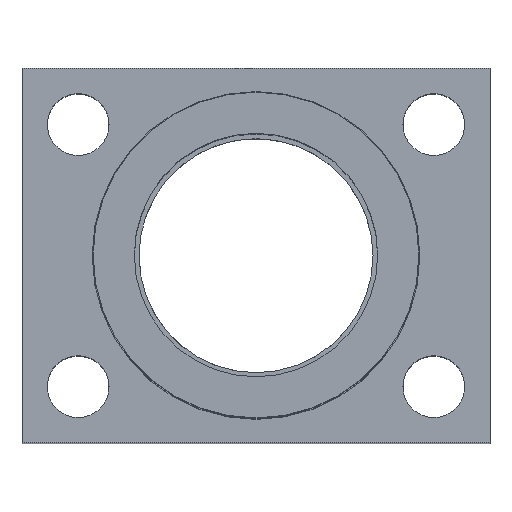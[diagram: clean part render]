
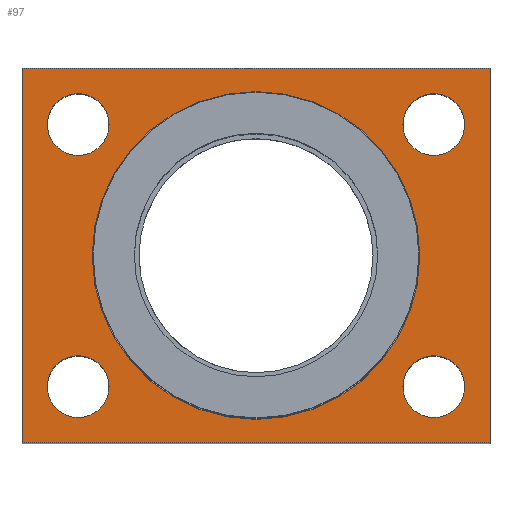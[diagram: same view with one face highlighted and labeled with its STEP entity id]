
A CAD part, top view. The second image highlights one B-rep face of the part: STEP entity #97.
In plain terms, the highlighted planar face has unit normal (0, 0, 1).
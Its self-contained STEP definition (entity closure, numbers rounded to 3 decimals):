
#1 = CARTESIAN_POINT ( 'NONE',  ( 22.3, -14., 8. ) ) ;
#16 = CARTESIAN_POINT ( 'NONE',  ( 25., -20., 8. ) ) ;
#58 = CARTESIAN_POINT ( 'NONE',  ( 19., -14., 8. ) ) ;
#68 = CIRCLE ( 'NONE', #1150, 3.3 ) ;
#75 = EDGE_CURVE ( 'NONE', #98, #625, #1276, .T. ) ;
#79 = ORIENTED_EDGE ( 'NONE', *, *, #1297, .F. ) ;
#85 = FACE_BOUND ( 'NONE', #1611, .T. ) ;
#97 = ADVANCED_FACE ( 'NONE', ( #85, #1793, #261, #1907, #995, #694 ), #1771, .T. ) ;
#98 = VERTEX_POINT ( 'NONE', #1926 ) ;
#109 = EDGE_CURVE ( 'NONE', #361, #1855, #1498, .T. ) ;
#135 = DIRECTION ( 'NONE',  ( 0., 0., 1. ) ) ;
#154 = VERTEX_POINT ( 'NONE', #825 ) ;
#156 = CIRCLE ( 'NONE', #736, 3.3 ) ;
#203 = VERTEX_POINT ( 'NONE', #1153 ) ;
#224 = VERTEX_POINT ( 'NONE', #1802 ) ;
#238 = ORIENTED_EDGE ( 'NONE', *, *, #979, .F. ) ;
#259 = AXIS2_PLACEMENT_3D ( 'NONE', #612, #1221, #920 ) ;
#261 = FACE_BOUND ( 'NONE', #1737, .T. ) ;
#289 = ORIENTED_EDGE ( 'NONE', *, *, #109, .F. ) ;
#338 = EDGE_CURVE ( 'NONE', #224, #380, #458, .T. ) ;
#351 = ORIENTED_EDGE ( 'NONE', *, *, #497, .T. ) ;
#361 = VERTEX_POINT ( 'NONE', #1071 ) ;
#364 = EDGE_CURVE ( 'NONE', #625, #224, #1862, .T. ) ;
#380 = VERTEX_POINT ( 'NONE', #16 ) ;
#391 = DIRECTION ( 'NONE',  ( 0., 0., 1. ) ) ;
#413 = CARTESIAN_POINT ( 'NONE',  ( 22.3, 14., 8. ) ) ;
#417 = CARTESIAN_POINT ( 'NONE',  ( -19., 14., 8. ) ) ;
#431 = DIRECTION ( 'NONE',  ( 1., 0., 0. ) ) ;
#444 = AXIS2_PLACEMENT_3D ( 'NONE', #1776, #1308, #1470 ) ;
#458 = LINE ( 'NONE', #1082, #536 ) ;
#477 = AXIS2_PLACEMENT_3D ( 'NONE', #1720, #680, #960 ) ;
#497 = EDGE_CURVE ( 'NONE', #380, #98, #567, .T. ) ;
#500 = ORIENTED_EDGE ( 'NONE', *, *, #715, .F. ) ;
#503 = CARTESIAN_POINT ( 'NONE',  ( 19., 14., 8. ) ) ;
#509 = CIRCLE ( 'NONE', #572, 3.3 ) ;
#518 = ORIENTED_EDGE ( 'NONE', *, *, #75, .T. ) ;
#521 = CARTESIAN_POINT ( 'NONE',  ( 0., 0., 8. ) ) ;
#532 = AXIS2_PLACEMENT_3D ( 'NONE', #1648, #586, #431 ) ;
#535 = EDGE_CURVE ( 'NONE', #154, #664, #156, .T. ) ;
#536 = VECTOR ( 'NONE', #964, 1000. ) ;
#548 = DIRECTION ( 'NONE',  ( 0., 1., 0. ) ) ;
#567 = LINE ( 'NONE', #852, #799 ) ;
#572 = AXIS2_PLACEMENT_3D ( 'NONE', #58, #974, #1127 ) ;
#577 = CARTESIAN_POINT ( 'NONE',  ( 15.7, -14., 8. ) ) ;
#580 = CARTESIAN_POINT ( 'NONE',  ( -19., 14., 8. ) ) ;
#586 = DIRECTION ( 'NONE',  ( 0., 0., 1. ) ) ;
#593 = EDGE_LOOP ( 'NONE', ( #518, #1718, #1119, #351 ) ) ;
#602 = AXIS2_PLACEMENT_3D ( 'NONE', #521, #391, #1759 ) ;
#612 = CARTESIAN_POINT ( 'NONE',  ( -19., -14., 8. ) ) ;
#625 = VERTEX_POINT ( 'NONE', #1050 ) ;
#631 = DIRECTION ( 'NONE',  ( 0., -1., 0. ) ) ;
#664 = VERTEX_POINT ( 'NONE', #1372 ) ;
#680 = DIRECTION ( 'NONE',  ( 0., 0., 1. ) ) ;
#682 = DIRECTION ( 'NONE',  ( 0., 0., 1. ) ) ;
#694 = FACE_OUTER_BOUND ( 'NONE', #593, .T. ) ;
#715 = EDGE_CURVE ( 'NONE', #1855, #361, #1116, .T. ) ;
#736 = AXIS2_PLACEMENT_3D ( 'NONE', #580, #135, #1778 ) ;
#796 = VECTOR ( 'NONE', #631, 1000. ) ;
#799 = VECTOR ( 'NONE', #548, 1000. ) ;
#814 = DIRECTION ( 'NONE',  ( 1., 0., 0. ) ) ;
#825 = CARTESIAN_POINT ( 'NONE',  ( -22.3, 14., 8. ) ) ;
#852 = CARTESIAN_POINT ( 'NONE',  ( 25., -20., 8. ) ) ;
#854 = EDGE_CURVE ( 'NONE', #947, #1415, #1022, .T. ) ;
#886 = CARTESIAN_POINT ( 'NONE',  ( 17.5, 0., 8. ) ) ;
#920 = DIRECTION ( 'NONE',  ( 1., 0., 0. ) ) ;
#947 = VERTEX_POINT ( 'NONE', #1458 ) ;
#955 = ORIENTED_EDGE ( 'NONE', *, *, #1780, .F. ) ;
#960 = DIRECTION ( 'NONE',  ( 1., 0., 0. ) ) ;
#964 = DIRECTION ( 'NONE',  ( 1., 0., 0. ) ) ;
#974 = DIRECTION ( 'NONE',  ( 0., 0., 1. ) ) ;
#979 = EDGE_CURVE ( 'NONE', #1521, #203, #1242, .T. ) ;
#980 = AXIS2_PLACEMENT_3D ( 'NONE', #417, #1918, #1030 ) ;
#992 = CIRCLE ( 'NONE', #980, 3.3 ) ;
#995 = FACE_BOUND ( 'NONE', #1548, .T. ) ;
#1017 = ORIENTED_EDGE ( 'NONE', *, *, #1831, .F. ) ;
#1022 = CIRCLE ( 'NONE', #1024, 3.3 ) ;
#1024 = AXIS2_PLACEMENT_3D ( 'NONE', #1750, #682, #814 ) ;
#1030 = DIRECTION ( 'NONE',  ( 1., 0., 0. ) ) ;
#1044 = EDGE_LOOP ( 'NONE', ( #1947, #955 ) ) ;
#1050 = CARTESIAN_POINT ( 'NONE',  ( -25., 20., 8. ) ) ;
#1071 = CARTESIAN_POINT ( 'NONE',  ( -22.3, -14., 8. ) ) ;
#1082 = CARTESIAN_POINT ( 'NONE',  ( -25., -20., 8. ) ) ;
#1105 = EDGE_LOOP ( 'NONE', ( #79, #1657 ) ) ;
#1116 = CIRCLE ( 'NONE', #259, 3.3 ) ;
#1119 = ORIENTED_EDGE ( 'NONE', *, *, #338, .T. ) ;
#1127 = DIRECTION ( 'NONE',  ( 1., 0., 0. ) ) ;
#1150 = AXIS2_PLACEMENT_3D ( 'NONE', #503, #1865, #1885 ) ;
#1153 = CARTESIAN_POINT ( 'NONE',  ( -17.5, 0., 8. ) ) ;
#1221 = DIRECTION ( 'NONE',  ( 0., 0., 1. ) ) ;
#1242 = CIRCLE ( 'NONE', #444, 17.5 ) ;
#1270 = CIRCLE ( 'NONE', #532, 17.5 ) ;
#1276 = LINE ( 'NONE', #1412, #1593 ) ;
#1292 = EDGE_CURVE ( 'NONE', #1415, #947, #68, .T. ) ;
#1297 = EDGE_CURVE ( 'NONE', #1883, #1842, #509, .T. ) ;
#1303 = DIRECTION ( 'NONE',  ( 0., 0., 1. ) ) ;
#1308 = DIRECTION ( 'NONE',  ( 0., 0., 1. ) ) ;
#1345 = EDGE_CURVE ( 'NONE', #1842, #1883, #1570, .T. ) ;
#1372 = CARTESIAN_POINT ( 'NONE',  ( -15.7, 14., 8. ) ) ;
#1412 = CARTESIAN_POINT ( 'NONE',  ( 25., 20., 8. ) ) ;
#1415 = VERTEX_POINT ( 'NONE', #413 ) ;
#1458 = CARTESIAN_POINT ( 'NONE',  ( 15.7, 14., 8. ) ) ;
#1464 = CARTESIAN_POINT ( 'NONE',  ( -19., -14., 8. ) ) ;
#1470 = DIRECTION ( 'NONE',  ( 1., 0., 0. ) ) ;
#1498 = CIRCLE ( 'NONE', #1754, 3.3 ) ;
#1521 = VERTEX_POINT ( 'NONE', #886 ) ;
#1548 = EDGE_LOOP ( 'NONE', ( #238, #1017 ) ) ;
#1570 = CIRCLE ( 'NONE', #477, 3.3 ) ;
#1577 = CARTESIAN_POINT ( 'NONE',  ( -25., 20., 8. ) ) ;
#1593 = VECTOR ( 'NONE', #1898, 1000. ) ;
#1611 = EDGE_LOOP ( 'NONE', ( #1813, #1625 ) ) ;
#1625 = ORIENTED_EDGE ( 'NONE', *, *, #1292, .F. ) ;
#1648 = CARTESIAN_POINT ( 'NONE',  ( 0., 0., 8. ) ) ;
#1657 = ORIENTED_EDGE ( 'NONE', *, *, #1345, .F. ) ;
#1718 = ORIENTED_EDGE ( 'NONE', *, *, #364, .T. ) ;
#1720 = CARTESIAN_POINT ( 'NONE',  ( 19., -14., 8. ) ) ;
#1737 = EDGE_LOOP ( 'NONE', ( #289, #500 ) ) ;
#1750 = CARTESIAN_POINT ( 'NONE',  ( 19., 14., 8. ) ) ;
#1754 = AXIS2_PLACEMENT_3D ( 'NONE', #1464, #1303, #1937 ) ;
#1759 = DIRECTION ( 'NONE',  ( 1., 0., 0. ) ) ;
#1771 = PLANE ( 'NONE',  #602 ) ;
#1776 = CARTESIAN_POINT ( 'NONE',  ( 0., 0., 8. ) ) ;
#1778 = DIRECTION ( 'NONE',  ( 1., 0., 0. ) ) ;
#1780 = EDGE_CURVE ( 'NONE', #664, #154, #992, .T. ) ;
#1793 = FACE_BOUND ( 'NONE', #1044, .T. ) ;
#1802 = CARTESIAN_POINT ( 'NONE',  ( -25., -20., 8. ) ) ;
#1813 = ORIENTED_EDGE ( 'NONE', *, *, #854, .F. ) ;
#1831 = EDGE_CURVE ( 'NONE', #203, #1521, #1270, .T. ) ;
#1842 = VERTEX_POINT ( 'NONE', #1 ) ;
#1855 = VERTEX_POINT ( 'NONE', #1979 ) ;
#1862 = LINE ( 'NONE', #1577, #796 ) ;
#1865 = DIRECTION ( 'NONE',  ( 0., 0., 1. ) ) ;
#1883 = VERTEX_POINT ( 'NONE', #577 ) ;
#1885 = DIRECTION ( 'NONE',  ( 1., 0., 0. ) ) ;
#1898 = DIRECTION ( 'NONE',  ( -1., 0., 0. ) ) ;
#1907 = FACE_BOUND ( 'NONE', #1105, .T. ) ;
#1918 = DIRECTION ( 'NONE',  ( 0., 0., 1. ) ) ;
#1926 = CARTESIAN_POINT ( 'NONE',  ( 25., 20., 8. ) ) ;
#1937 = DIRECTION ( 'NONE',  ( 1., 0., 0. ) ) ;
#1947 = ORIENTED_EDGE ( 'NONE', *, *, #535, .F. ) ;
#1979 = CARTESIAN_POINT ( 'NONE',  ( -15.7, -14., 8. ) ) ;
